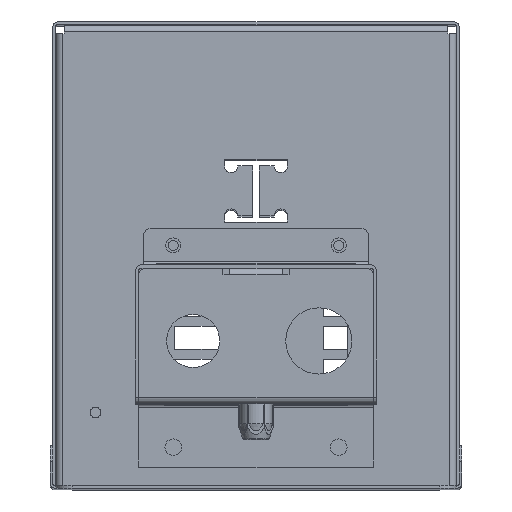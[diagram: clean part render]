
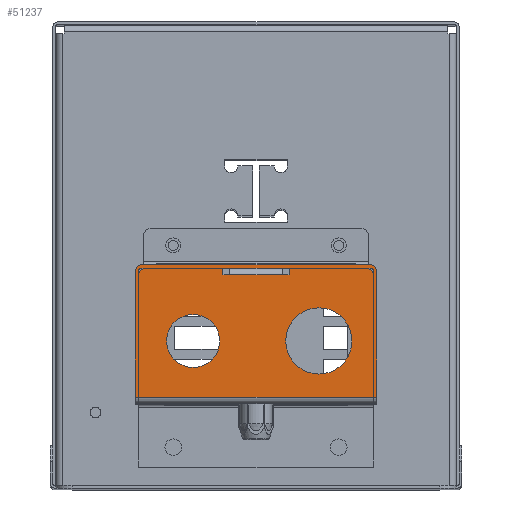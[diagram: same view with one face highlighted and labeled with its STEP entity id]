
A CAD part, top view. The second image highlights one B-rep face of the part: STEP entity #51237.
In plain terms, the highlighted planar face has unit normal (0, 0, 1).
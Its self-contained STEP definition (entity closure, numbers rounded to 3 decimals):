
#7070=LINE('',#84717,#12392);
#7077=LINE('',#84731,#12399);
#7080=LINE('',#84736,#12402);
#7083=LINE('',#84745,#12405);
#7092=LINE('',#84776,#12414);
#7094=LINE('',#84780,#12416);
#7095=LINE('',#84783,#12417);
#7106=LINE('',#84814,#12428);
#7127=LINE('',#84902,#12449);
#7133=LINE('',#84913,#12455);
#7134=LINE('',#84914,#12456);
#7152=LINE('',#84987,#12474);
#7156=LINE('',#84995,#12478);
#7160=LINE('',#85008,#12482);
#7161=LINE('',#85010,#12483);
#7162=LINE('',#85012,#12484);
#7163=LINE('',#85015,#12485);
#7164=LINE('',#85017,#12486);
#12392=VECTOR('',#62356,10.);
#12399=VECTOR('',#62369,10.);
#12402=VECTOR('',#62374,10.);
#12405=VECTOR('',#62383,10.);
#12414=VECTOR('',#62414,10.);
#12416=VECTOR('',#62418,10.);
#12417=VECTOR('',#62421,10.);
#12428=VECTOR('',#62462,10.);
#12449=VECTOR('',#62541,10.);
#12455=VECTOR('',#62547,10.);
#12456=VECTOR('',#62548,10.);
#12474=VECTOR('',#62622,10.);
#12478=VECTOR('',#62630,10.);
#12482=VECTOR('',#62642,10.);
#12483=VECTOR('',#62645,10.);
#12484=VECTOR('',#62646,10.);
#12485=VECTOR('',#62649,10.);
#12486=VECTOR('',#62650,10.);
#14244=PLANE('',#53321);
#14931=FACE_BOUND('',#20480,.T.);
#14932=FACE_BOUND('',#20481,.T.);
#14933=FACE_BOUND('',#20482,.T.);
#17368=FACE_OUTER_BOUND('',#20479,.T.);
#20479=EDGE_LOOP('',(#45839,#45840,#45841,#45842,#45843,#45844,#45845,#45846,
#45847,#45848,#45849,#45850,#45851,#45852,#45853,#45854,#45855,#45856));
#20480=EDGE_LOOP('',(#45857,#45858,#45859,#45860,#45861,#45862));
#20481=EDGE_LOOP('',(#45863));
#20482=EDGE_LOOP('',(#45864));
#20791=CIRCLE('',#53228,2.);
#20796=CIRCLE('',#53235,2.);
#20802=CIRCLE('',#53250,10.);
#20803=CIRCLE('',#53252,8.);
#20823=CIRCLE('',#53306,1.);
#20824=CIRCLE('',#53308,2.);
#20830=CIRCLE('',#53322,2.);
#20831=CIRCLE('',#53323,1.);
#25308=VERTEX_POINT('',#84714);
#25309=VERTEX_POINT('',#84716);
#25313=VERTEX_POINT('',#84729);
#25314=VERTEX_POINT('',#84734);
#25315=VERTEX_POINT('',#84738);
#25316=VERTEX_POINT('',#84740);
#25317=VERTEX_POINT('',#84744);
#25322=VERTEX_POINT('',#84758);
#25323=VERTEX_POINT('',#84759);
#25328=VERTEX_POINT('',#84774);
#25329=VERTEX_POINT('',#84778);
#25330=VERTEX_POINT('',#84782);
#25334=VERTEX_POINT('',#84801);
#25335=VERTEX_POINT('',#84804);
#25355=VERTEX_POINT('',#84901);
#25360=VERTEX_POINT('',#84911);
#25381=VERTEX_POINT('',#84968);
#25382=VERTEX_POINT('',#84972);
#25383=VERTEX_POINT('',#84974);
#25386=VERTEX_POINT('',#84984);
#25387=VERTEX_POINT('',#84986);
#25391=VERTEX_POINT('',#85001);
#25394=VERTEX_POINT('',#85006);
#25395=VERTEX_POINT('',#85011);
#25396=VERTEX_POINT('',#85013);
#25397=VERTEX_POINT('',#85016);
#32109=EDGE_CURVE('',#25308,#25309,#7070,.T.);
#32117=EDGE_CURVE('',#25308,#25313,#7077,.T.);
#32120=EDGE_CURVE('',#25314,#25309,#7080,.T.);
#32122=EDGE_CURVE('',#25315,#25316,#20791,.T.);
#32124=EDGE_CURVE('',#25316,#25317,#7083,.T.);
#32132=EDGE_CURVE('',#25322,#25323,#20796,.T.);
#32142=EDGE_CURVE('',#25328,#25322,#7092,.T.);
#32144=EDGE_CURVE('',#25313,#25329,#7094,.T.);
#32145=EDGE_CURVE('',#25330,#25314,#7095,.T.);
#32154=EDGE_CURVE('',#25334,#25334,#20802,.T.);
#32155=EDGE_CURVE('',#25335,#25335,#20803,.T.);
#32159=EDGE_CURVE('',#25317,#25328,#7106,.T.);
#32193=EDGE_CURVE('',#25355,#25323,#7127,.T.);
#32199=EDGE_CURVE('',#25315,#25360,#7133,.T.);
#32200=EDGE_CURVE('',#25329,#25330,#7134,.T.);
#32228=EDGE_CURVE('',#25360,#25381,#20823,.T.);
#32230=EDGE_CURVE('',#25383,#25382,#20824,.T.);
#32234=EDGE_CURVE('',#25386,#25387,#7152,.T.);
#32239=EDGE_CURVE('',#25386,#25383,#7156,.T.);
#32245=EDGE_CURVE('',#25394,#25391,#7160,.T.);
#32246=EDGE_CURVE('',#25381,#25387,#7161,.T.);
#32247=EDGE_CURVE('',#25382,#25395,#7162,.T.);
#32248=EDGE_CURVE('',#25395,#25396,#20830,.T.);
#32249=EDGE_CURVE('',#25396,#25391,#7163,.T.);
#32250=EDGE_CURVE('',#25394,#25397,#7164,.T.);
#32251=EDGE_CURVE('',#25397,#25355,#20831,.T.);
#45839=ORIENTED_EDGE('',*,*,#32132,.F.);
#45840=ORIENTED_EDGE('',*,*,#32142,.F.);
#45841=ORIENTED_EDGE('',*,*,#32159,.F.);
#45842=ORIENTED_EDGE('',*,*,#32124,.F.);
#45843=ORIENTED_EDGE('',*,*,#32122,.F.);
#45844=ORIENTED_EDGE('',*,*,#32199,.T.);
#45845=ORIENTED_EDGE('',*,*,#32228,.T.);
#45846=ORIENTED_EDGE('',*,*,#32246,.T.);
#45847=ORIENTED_EDGE('',*,*,#32234,.F.);
#45848=ORIENTED_EDGE('',*,*,#32239,.T.);
#45849=ORIENTED_EDGE('',*,*,#32230,.T.);
#45850=ORIENTED_EDGE('',*,*,#32247,.T.);
#45851=ORIENTED_EDGE('',*,*,#32248,.T.);
#45852=ORIENTED_EDGE('',*,*,#32249,.T.);
#45853=ORIENTED_EDGE('',*,*,#32245,.F.);
#45854=ORIENTED_EDGE('',*,*,#32250,.T.);
#45855=ORIENTED_EDGE('',*,*,#32251,.T.);
#45856=ORIENTED_EDGE('',*,*,#32193,.T.);
#45857=ORIENTED_EDGE('',*,*,#32200,.T.);
#45858=ORIENTED_EDGE('',*,*,#32145,.T.);
#45859=ORIENTED_EDGE('',*,*,#32120,.T.);
#45860=ORIENTED_EDGE('',*,*,#32109,.F.);
#45861=ORIENTED_EDGE('',*,*,#32117,.T.);
#45862=ORIENTED_EDGE('',*,*,#32144,.T.);
#45863=ORIENTED_EDGE('',*,*,#32154,.T.);
#45864=ORIENTED_EDGE('',*,*,#32155,.T.);
#51237=ADVANCED_FACE('',(#17368,#14931,#14932,#14933),#14244,.T.);
#53228=AXIS2_PLACEMENT_3D('',#84741,#62378,#62379);
#53235=AXIS2_PLACEMENT_3D('',#84760,#62397,#62398);
#53250=AXIS2_PLACEMENT_3D('',#84802,#62443,#62444);
#53252=AXIS2_PLACEMENT_3D('',#84805,#62447,#62448);
#53306=AXIS2_PLACEMENT_3D('',#84970,#62602,#62603);
#53308=AXIS2_PLACEMENT_3D('',#84975,#62607,#62608);
#53321=AXIS2_PLACEMENT_3D('',#85009,#62643,#62644);
#53322=AXIS2_PLACEMENT_3D('',#85014,#62647,#62648);
#53323=AXIS2_PLACEMENT_3D('',#85018,#62651,#62652);
#62356=DIRECTION('',(1.,0.,0.));
#62369=DIRECTION('',(-1.,0.,0.));
#62374=DIRECTION('',(-1.,0.,0.));
#62378=DIRECTION('center_axis',(0.,0.,
-1.));
#62379=DIRECTION('ref_axis',(0.707,0.707,0.));
#62383=DIRECTION('',(0.,-1.,0.));
#62397=DIRECTION('center_axis',(0.,0.,
-1.));
#62398=DIRECTION('ref_axis',(-0.707,0.707,0.));
#62414=DIRECTION('',(0.,1.,0.));
#62418=DIRECTION('',(0.,1.,0.));
#62421=DIRECTION('',(0.,-1.,0.));
#62443=DIRECTION('center_axis',(0.,0.,
-1.));
#62444=DIRECTION('ref_axis',(-1.,0.,0.));
#62447=DIRECTION('center_axis',(0.,0.,
-1.));
#62448=DIRECTION('ref_axis',(-1.,0.,0.));
#62462=DIRECTION('',(-1.,0.,0.));
#62541=DIRECTION('',(1.,0.,0.));
#62547=DIRECTION('',(1.,0.,0.));
#62548=DIRECTION('',(1.,0.,0.));
#62602=DIRECTION('center_axis',(0.,0.,
-1.));
#62603=DIRECTION('ref_axis',(-1.,0.,0.));
#62607=DIRECTION('center_axis',(0.,0.,
1.));
#62608=DIRECTION('ref_axis',(1.,0.,0.));
#62622=DIRECTION('',(-1.,0.,0.));
#62630=DIRECTION('',(0.,1.,0.));
#62642=DIRECTION('',(-1.,0.,0.));
#62643=DIRECTION('center_axis',(0.,0.,
1.));
#62644=DIRECTION('ref_axis',(1.,0.,0.));
#62645=DIRECTION('',(0.,-1.,0.));
#62646=DIRECTION('',(-1.,0.,0.));
#62647=DIRECTION('center_axis',(0.,0.,
1.));
#62648=DIRECTION('ref_axis',(0.,1.,0.));
#62649=DIRECTION('',(0.,-1.,0.));
#62650=DIRECTION('',(0.,1.,0.));
#62651=DIRECTION('center_axis',(0.,0.,
-1.));
#62652=DIRECTION('ref_axis',(0.,-1.,0.));
#84714=CARTESIAN_POINT('',(-8.,57.9,194.3));
#84716=CARTESIAN_POINT('',(8.,57.9,194.3));
#84717=CARTESIAN_POINT('',(0.,57.9,194.3));
#84729=CARTESIAN_POINT('',(-10.,57.9,194.3));
#84731=CARTESIAN_POINT('',(-4.5,57.9,194.3));
#84734=CARTESIAN_POINT('',(10.,57.9,194.3));
#84736=CARTESIAN_POINT('',(4.5,57.9,194.3));
#84738=CARTESIAN_POINT('',(33.4,59.9,194.3));
#84740=CARTESIAN_POINT('',(35.4,57.9,194.3));
#84741=CARTESIAN_POINT('Origin',(33.4,57.9,194.3));
#84744=CARTESIAN_POINT('',(35.4,20.9,194.3));
#84745=CARTESIAN_POINT('',(35.4,18.9,194.3));
#84758=CARTESIAN_POINT('',(-35.4,57.9,194.3));
#84759=CARTESIAN_POINT('',(-33.4,59.9,194.3));
#84760=CARTESIAN_POINT('Origin',(-33.4,57.9,194.3));
#84774=CARTESIAN_POINT('',(-35.4,20.9,194.3));
#84776=CARTESIAN_POINT('',(-35.4,58.9,194.3));
#84778=CARTESIAN_POINT('',(-10.,59.9,194.3));
#84780=CARTESIAN_POINT('',(-10.,58.9,194.3));
#84782=CARTESIAN_POINT('',(10.,59.9,194.3));
#84783=CARTESIAN_POINT('',(10.,38.9,194.3));
#84801=CARTESIAN_POINT('',(29.,37.9,194.3));
#84802=CARTESIAN_POINT('Origin',(19.,37.9,194.3));
#84804=CARTESIAN_POINT('',(-11.,37.9,194.3));
#84805=CARTESIAN_POINT('Origin',(-19.,37.9,194.3));
#84814=CARTESIAN_POINT('',(0.,20.9,194.3));
#84901=CARTESIAN_POINT('',(-34.5,59.9,194.3));
#84902=CARTESIAN_POINT('',(-34.5,59.9,194.3));
#84911=CARTESIAN_POINT('',(34.5,59.9,194.3));
#84913=CARTESIAN_POINT('',(-34.5,59.9,194.3));
#84914=CARTESIAN_POINT('',(-34.5,59.9,194.3));
#84968=CARTESIAN_POINT('',(35.5,58.9,194.3));
#84970=CARTESIAN_POINT('Origin',(34.5,58.9,194.3));
#84972=CARTESIAN_POINT('',(34.5,60.9,194.3));
#84974=CARTESIAN_POINT('',(36.5,58.9,194.3));
#84975=CARTESIAN_POINT('Origin',(34.5,58.9,194.3));
#84984=CARTESIAN_POINT('',(36.5,20.9,194.3));
#84986=CARTESIAN_POINT('',(35.5,20.9,194.3));
#84987=CARTESIAN_POINT('',(17.75,20.9,194.3));
#84995=CARTESIAN_POINT('',(36.5,18.9,194.3));
#85001=CARTESIAN_POINT('',(-36.5,20.9,194.3));
#85006=CARTESIAN_POINT('',(-35.5,20.9,194.3));
#85008=CARTESIAN_POINT('',(-18.25,20.9,194.3));
#85009=CARTESIAN_POINT('Origin',(0.,48.917,
194.3));
#85010=CARTESIAN_POINT('',(35.5,58.9,194.3));
#85011=CARTESIAN_POINT('',(-34.5,60.9,194.3));
#85012=CARTESIAN_POINT('',(34.5,60.9,194.3));
#85013=CARTESIAN_POINT('',(-36.5,58.9,194.3));
#85014=CARTESIAN_POINT('Origin',(-34.5,58.9,194.3));
#85015=CARTESIAN_POINT('',(-36.5,58.9,194.3));
#85016=CARTESIAN_POINT('',(-35.5,58.9,194.3));
#85017=CARTESIAN_POINT('',(-35.5,18.9,194.3));
#85018=CARTESIAN_POINT('Origin',(-34.5,58.9,194.3));
